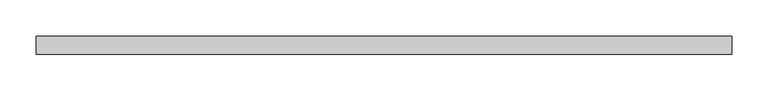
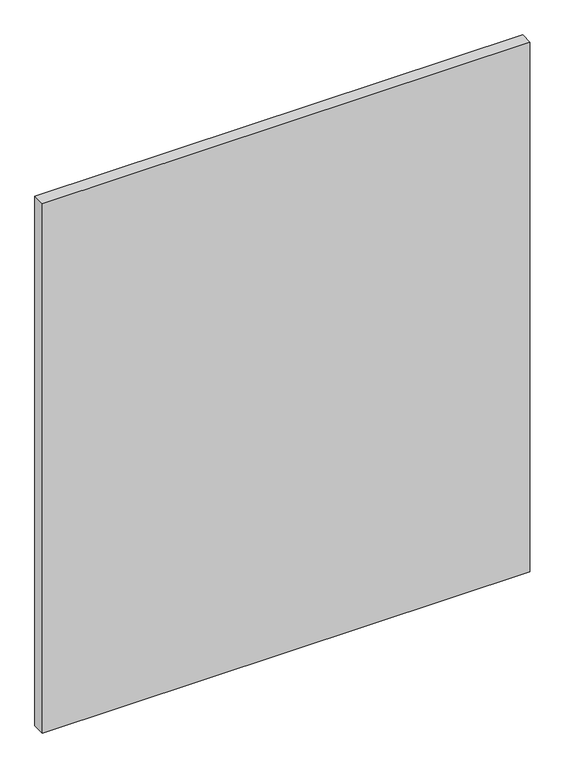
"""IFC4 building model written with IfcOpenShell, lengths in millimetres: plate geometry, 系統嵌板 : 有玻璃的."""

from ifc_helpers import new_model, si_unit, origin, origin_with_axes, place, context, project, spatial, polyline, outline, extrude, source, transform, mapped, element, save


def plate_04f62988(model_context):
    return source(origin(), model_context, "Body", "SweptSolid", [
        extrude(outline(polyline([(479.0797973, 24.5), (-479.0797973, 24.5), (-479.0797973, 49.5), (479.0797973, 49.5), (479.0797973, 24.5)])), origin_with_axes(), (0.0, 0.0, 1.0), 1099.8779336),
    ])


if __name__ == "__main__":
    model = new_model("IFC4")
    model_context = context("Model", 3, world=origin())
    ifc_project = project(units=[si_unit("LENGTHUNIT", "METRE", prefix="MILLI")], contexts=[model_context])
    site = spatial("IfcSite", under=ifc_project)
    building = spatial("IfcBuilding", under=site)
    placement = place(None, origin())
    plate_shape = plate_04f62988(model_context)
    element("IfcPlate", 1, ObjectType="系統嵌板 : 有玻璃的", at=placement, inside=building, context=model_context, shape_type="MappedRepresentation", body=[
        mapped(plate_shape, transform((0.0, 0.0, 0.0), x_axis=(1.0, 0.0, 0.0), y_axis=(0.0, 1.0, 0.0), z_axis=(0.0, 0.0, 1.0))),
    ])
    save(model, "model.ifc")
